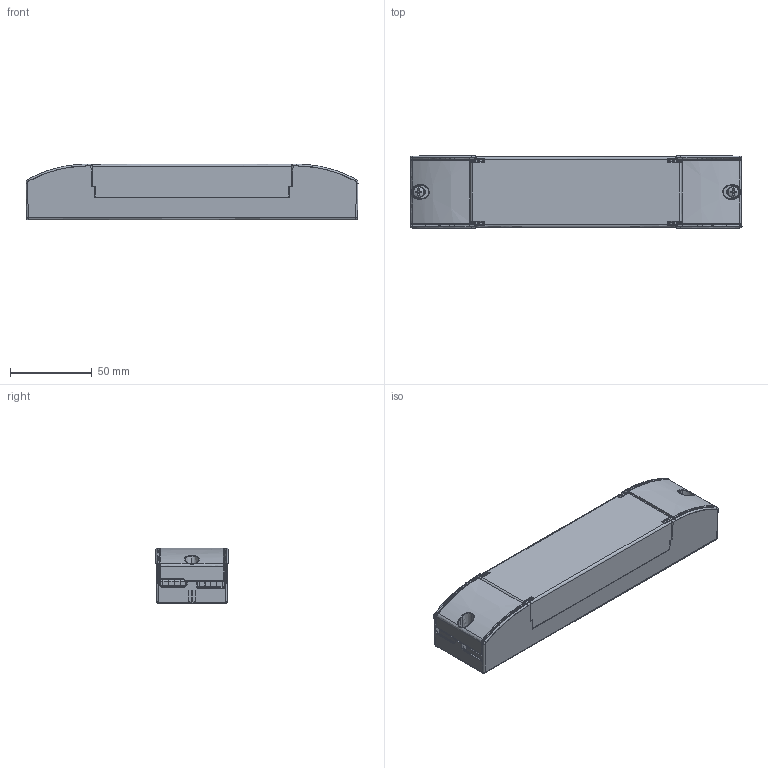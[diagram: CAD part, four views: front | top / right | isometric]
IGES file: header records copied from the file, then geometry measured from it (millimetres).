
Start section: SolidWorks IGES file using analytic representation for surfaces
Global section: file name: C:\Temp\OLQ-batchEngine\queue\temp_\4285416swm000.igs; native system: SolidWorks 2020; preprocessor: SolidWorks 2020; author: SYSTEM; date: 210204.025501; units: millimetre
Bounding box: 202.81 x 44.27 x 34 mm (x, y, z)
Surface area: 67982.8 mm2 (no closed solid volume)
Topology: 0 solids, 0 shells, 3410 faces, 24593 edges, 24589 vertices
Faces by surface type: bspline 2684, revolution 726
